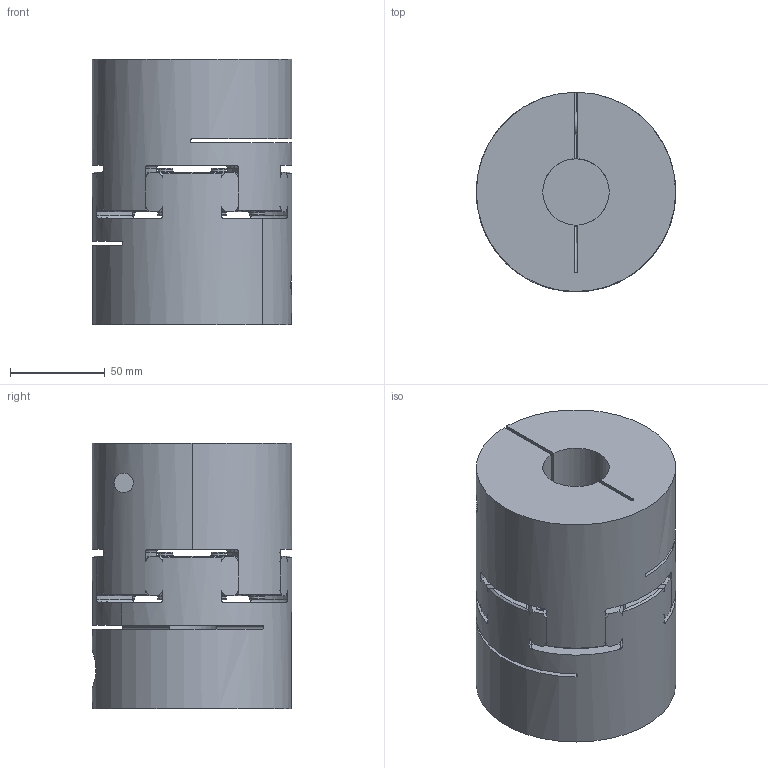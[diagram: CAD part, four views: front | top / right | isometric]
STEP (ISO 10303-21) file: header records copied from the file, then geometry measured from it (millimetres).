
FILE_DESCRIPTION((''),'2;1');
FILE_NAME('ROBA-ES__SIZE_48_TYPE_940_000','2021-05-31T09:19:34',('procad'),('Chr. Mayr GmbH + Co. KG'),'CREO PARAMETRIC BY PTC INC, 2019471','CREO PARAMETRIC BY PTC INC, 2019471','');
FILE_SCHEMA(('CONFIG_CONTROL_DESIGN','SHAPE_APPEARANCE_LAYERS_GROUPS'));
Length unit declared in the file: millimetre
Products named in the file (1): ROBA-ES__SIZE_48_TYPE_940_000
Bounding box: 105 x 105 x 140 mm (x, y, z)
Volume: 980438.4 mm3; surface area: 138730.3 mm2
Topology: 1 solids, 1 shells, 513 faces, 1380 edges, 870 vertices
Faces by surface type: plane 233, cylinder 122, cone 84, torus 74
Entity records: 20609 total; most frequent: CARTESIAN_POINT 4349, ORIENTED_EDGE 2760, DIRECTION 2700, EDGE_CURVE 1380, AXIS2_PLACEMENT_3D 1015, VERTEX_POINT 870, VECTOR 670, LINE 670
